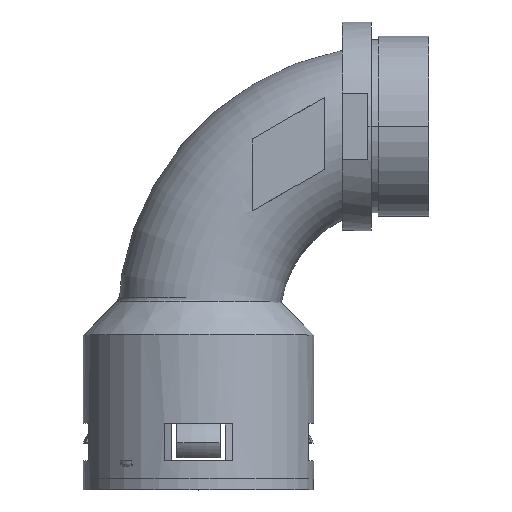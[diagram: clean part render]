
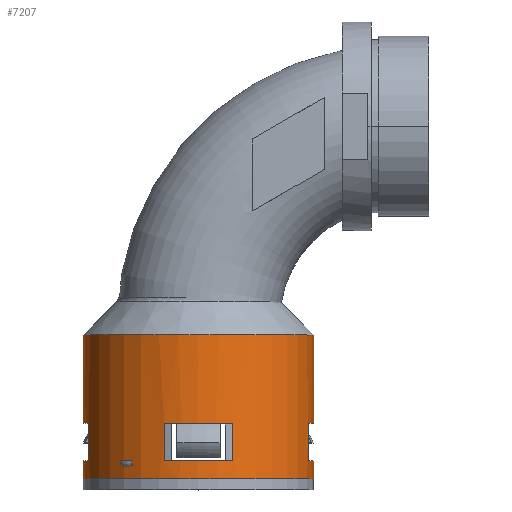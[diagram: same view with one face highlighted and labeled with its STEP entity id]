
A CAD part, top view. The second image highlights one B-rep face of the part: STEP entity #7207.
In plain terms, the highlighted cylindrical face has radius 32 mm (diameter 64 mm), a partial arc.
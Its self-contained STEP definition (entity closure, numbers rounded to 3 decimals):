
#595 = CARTESIAN_POINT ( 'NONE',  ( 0.002, 15.5, 0. ) ) ;
#596 = AXIS2_PLACEMENT_3D ( 'NONE', #595, #730, #1155 ) ;
#730 = DIRECTION ( 'NONE',  ( 0., -1., 0. ) ) ;
#1155 = DIRECTION ( 'NONE',  ( 0., 0., 1. ) ) ;
#1994 = CARTESIAN_POINT ( 'NONE',  ( 32.002, 40., 0. ) ) ;
#2007 = CARTESIAN_POINT ( 'NONE',  ( -9.5, 5., 30.557 ) ) ;
#2015 = FACE_OUTER_BOUND ( 'NONE', #7309, .T. ) ;
#2016 = DIRECTION ( 'NONE',  ( -1., 0., 0. ) ) ;
#2017 = DIRECTION ( 'NONE',  ( 0., 1., 0. ) ) ;
#2019 = CYLINDRICAL_SURFACE ( 'NONE', #2036, 32. ) ;
#2020 = FACE_BOUND ( 'NONE', #7339, .T. ) ;
#2026 = CARTESIAN_POINT ( 'NONE',  ( 0.002, 78., 0. ) ) ;
#2036 = AXIS2_PLACEMENT_3D ( 'NONE', #2026, #2017, #2016 ) ;
#2236 = CARTESIAN_POINT ( 'NONE',  ( -31.998, 40., 0. ) ) ;
#2244 = CARTESIAN_POINT ( 'NONE',  ( 30.56, 15.5, 9.5 ) ) ;
#2250 = DIRECTION ( 'NONE',  ( 0., 0., 1. ) ) ;
#2251 = DIRECTION ( 'NONE',  ( 0., -1., 0. ) ) ;
#2252 = CARTESIAN_POINT ( 'NONE',  ( 0.002, 15.5, 0. ) ) ;
#2253 = AXIS2_PLACEMENT_3D ( 'NONE', #2252, #2251, #2250 ) ;
#2261 = CARTESIAN_POINT ( 'NONE',  ( 32.002, 0., 0. ) ) ;
#2267 = CIRCLE ( 'NONE', #2253, 32. ) ;
#2290 = DIRECTION ( 'NONE',  ( 0., 0., 1. ) ) ;
#2291 = DIRECTION ( 'NONE',  ( 0., -1., 0. ) ) ;
#2292 = CARTESIAN_POINT ( 'NONE',  ( 0.002, 15.5, 0. ) ) ;
#2294 = DIRECTION ( 'NONE',  ( 0., 1., 0. ) ) ;
#2295 = VECTOR ( 'NONE', #2294, 1000. ) ;
#2296 = AXIS2_PLACEMENT_3D ( 'NONE', #2292, #2291, #2290 ) ;
#2299 = CIRCLE ( 'NONE', #2296, 32. ) ;
#2300 = DIRECTION ( 'NONE',  ( 0., 1., 0. ) ) ;
#2301 = VECTOR ( 'NONE', #2300, 1000. ) ;
#2303 = CARTESIAN_POINT ( 'NONE',  ( 9.5, 5., 30.558 ) ) ;
#2304 = CARTESIAN_POINT ( 'NONE',  ( 30.56, 5., 9.5 ) ) ;
#2309 = CARTESIAN_POINT ( 'NONE',  ( -31.998, 78., 0. ) ) ;
#2310 = LINE ( 'NONE', #2309, #2295 ) ;
#2314 = CARTESIAN_POINT ( 'NONE',  ( -31.998, 5., 0. ) ) ;
#2315 = CARTESIAN_POINT ( 'NONE',  ( -9.5, 78., 30.557 ) ) ;
#2316 = LINE ( 'NONE', #2315, #2301 ) ;
#2330 = DIRECTION ( 'NONE',  ( 0., 0., 1. ) ) ;
#2331 = DIRECTION ( 'NONE',  ( 0., -1., 0. ) ) ;
#2332 = CARTESIAN_POINT ( 'NONE',  ( 0.002, 5., 0. ) ) ;
#2334 = CARTESIAN_POINT ( 'NONE',  ( -31.998, 0., 0. ) ) ;
#2336 = CIRCLE ( 'NONE', #2343, 32. ) ;
#2343 = AXIS2_PLACEMENT_3D ( 'NONE', #2332, #2331, #2330 ) ;
#2348 = CARTESIAN_POINT ( 'NONE',  ( 9.5, 15.5, 30.558 ) ) ;
#2350 = CARTESIAN_POINT ( 'NONE',  ( -9.5, 15.5, 30.557 ) ) ;
#2351 = AXIS2_PLACEMENT_3D ( 'NONE', #2361, #2404, #2403 ) ;
#2356 = DIRECTION ( 'NONE',  ( 0., -1., 0. ) ) ;
#2357 = VECTOR ( 'NONE', #2356, 1000. ) ;
#2361 = CARTESIAN_POINT ( 'NONE',  ( 0.002, 5., 0. ) ) ;
#2372 = CIRCLE ( 'NONE', #2351, 32. ) ;
#2377 = CARTESIAN_POINT ( 'NONE',  ( 9.5, 78., 30.558 ) ) ;
#2378 = LINE ( 'NONE', #2377, #2357 ) ;
#2387 = CIRCLE ( 'NONE', #596, 32. ) ;
#2395 = DIRECTION ( 'NONE',  ( -1., 0., 0. ) ) ;
#2396 = AXIS2_PLACEMENT_3D ( 'NONE', #2399, #2406, #2395 ) ;
#2399 = CARTESIAN_POINT ( 'NONE',  ( 0.002, 0., 0. ) ) ;
#2403 = DIRECTION ( 'NONE',  ( 0., 0., 1. ) ) ;
#2404 = DIRECTION ( 'NONE',  ( 0., -1., 0. ) ) ;
#2406 = DIRECTION ( 'NONE',  ( 0., 1., 0. ) ) ;
#2407 = CIRCLE ( 'NONE', #2396, 32. ) ;
#2436 = CARTESIAN_POINT ( 'NONE',  ( -31.998, 15.5, 0. ) ) ;
#2450 = CARTESIAN_POINT ( 'NONE',  ( 32.002, 15.5, 0. ) ) ;
#2493 = CARTESIAN_POINT ( 'NONE',  ( -30.555, 5., 9.5 ) ) ;
#2494 = DIRECTION ( 'NONE',  ( 0., 1., 0. ) ) ;
#2495 = VECTOR ( 'NONE', #2494, 1000. ) ;
#2496 = CARTESIAN_POINT ( 'NONE',  ( 32.002, 78., 0. ) ) ;
#2498 = VECTOR ( 'NONE', #2502, 1000. ) ;
#2500 = DIRECTION ( 'NONE',  ( 0., 0., 1. ) ) ;
#2501 = DIRECTION ( 'NONE',  ( 0., -1., 0. ) ) ;
#2502 = DIRECTION ( 'NONE',  ( 0., 1., 0. ) ) ;
#2503 = CARTESIAN_POINT ( 'NONE',  ( 30.56, 78., 9.5 ) ) ;
#2504 = CARTESIAN_POINT ( 'NONE',  ( -30.555, 15.5, 9.5 ) ) ;
#2505 = LINE ( 'NONE', #2503, #2498 ) ;
#2506 = LINE ( 'NONE', #2496, #2495 ) ;
#2507 = DIRECTION ( 'NONE',  ( 0., 1., 0. ) ) ;
#2508 = VECTOR ( 'NONE', #2507, 1000. ) ;
#2509 = CARTESIAN_POINT ( 'NONE',  ( 32.002, 78., 0. ) ) ;
#2511 = DIRECTION ( 'NONE',  ( -1., 0., 0. ) ) ;
#2512 = DIRECTION ( 'NONE',  ( 0., 1., 0. ) ) ;
#2513 = CARTESIAN_POINT ( 'NONE',  ( 0.002, 40., 0. ) ) ;
#2514 = CARTESIAN_POINT ( 'NONE',  ( 0.002, 5., 0. ) ) ;
#2515 = CARTESIAN_POINT ( 'NONE',  ( 32.002, 5., 0. ) ) ;
#2519 = AXIS2_PLACEMENT_3D ( 'NONE', #2513, #2512, #2511 ) ;
#2520 = LINE ( 'NONE', #2509, #2508 ) ;
#2521 = CIRCLE ( 'NONE', #2527, 32. ) ;
#2527 = AXIS2_PLACEMENT_3D ( 'NONE', #2514, #2501, #2500 ) ;
#2531 = DIRECTION ( 'NONE',  ( 0., 1., 0. ) ) ;
#2532 = VECTOR ( 'NONE', #2531, 1000. ) ;
#2533 = CARTESIAN_POINT ( 'NONE',  ( -31.998, 78., 0. ) ) ;
#2534 = LINE ( 'NONE', #2533, #2532 ) ;
#2535 = DIRECTION ( 'NONE',  ( 0., -1., 0. ) ) ;
#2536 = VECTOR ( 'NONE', #2535, 1000. ) ;
#2542 = CARTESIAN_POINT ( 'NONE',  ( -30.555, 78., 9.5 ) ) ;
#2543 = LINE ( 'NONE', #2542, #2536 ) ;
#2550 = CIRCLE ( 'NONE', #2519, 32. ) ;
#7207 = ADVANCED_FACE ( 'NONE', ( #2020, #2015 ), #2019, .T. ) ;
#7208 = VERTEX_POINT ( 'NONE', #2007 ) ;
#7212 = ORIENTED_EDGE ( 'NONE', *, *, #7375, .T. ) ;
#7213 = VERTEX_POINT ( 'NONE', #1994 ) ;
#7282 = EDGE_CURVE ( 'NONE', #7392, #7288, #2267, .T. ) ;
#7284 = VERTEX_POINT ( 'NONE', #2261 ) ;
#7288 = VERTEX_POINT ( 'NONE', #2244 ) ;
#7289 = ORIENTED_EDGE ( 'NONE', *, *, #7429, .T. ) ;
#7295 = ORIENTED_EDGE ( 'NONE', *, *, #7425, .T. ) ;
#7305 = VERTEX_POINT ( 'NONE', #2236 ) ;
#7309 = EDGE_LOOP ( 'NONE', ( #7326, #7329, #7330, #7289, #7363, #7295, #7427, #7332, #7341, #7331, #7317, #7413 ) ) ;
#7311 = EDGE_CURVE ( 'NONE', #7208, #7387, #2316, .T. ) ;
#7314 = VERTEX_POINT ( 'NONE', #2303 ) ;
#7316 = EDGE_CURVE ( 'NONE', #7391, #7305, #2310, .T. ) ;
#7317 = ORIENTED_EDGE ( 'NONE', *, *, #7426, .T. ) ;
#7318 = EDGE_CURVE ( 'NONE', #7432, #7391, #2299, .T. ) ;
#7319 = VERTEX_POINT ( 'NONE', #2314 ) ;
#7325 = VERTEX_POINT ( 'NONE', #2348 ) ;
#7326 = ORIENTED_EDGE ( 'NONE', *, *, #7378, .T. ) ;
#7329 = ORIENTED_EDGE ( 'NONE', *, *, #7433, .T. ) ;
#7330 = ORIENTED_EDGE ( 'NONE', *, *, #7344, .T. ) ;
#7331 = ORIENTED_EDGE ( 'NONE', *, *, #7414, .T. ) ;
#7332 = ORIENTED_EDGE ( 'NONE', *, *, #7316, .F. ) ;
#7339 = EDGE_LOOP ( 'NONE', ( #7420, #7373, #7212, #7372 ) ) ;
#7341 = ORIENTED_EDGE ( 'NONE', *, *, #7318, .F. ) ;
#7342 = VERTEX_POINT ( 'NONE', #2304 ) ;
#7343 = VERTEX_POINT ( 'NONE', #2334 ) ;
#7344 = EDGE_CURVE ( 'NONE', #7428, #7342, #2336, .T. ) ;
#7363 = ORIENTED_EDGE ( 'NONE', *, *, #7282, .F. ) ;
#7371 = EDGE_CURVE ( 'NONE', #7325, #7314, #2378, .T. ) ;
#7372 = ORIENTED_EDGE ( 'NONE', *, *, #7311, .T. ) ;
#7373 = ORIENTED_EDGE ( 'NONE', *, *, #7371, .T. ) ;
#7375 = EDGE_CURVE ( 'NONE', #7314, #7208, #2372, .T. ) ;
#7378 = EDGE_CURVE ( 'NONE', #7343, #7284, #2407, .T. ) ;
#7387 = VERTEX_POINT ( 'NONE', #2350 ) ;
#7388 = EDGE_CURVE ( 'NONE', #7325, #7387, #2387, .T. ) ;
#7391 = VERTEX_POINT ( 'NONE', #2436 ) ;
#7392 = VERTEX_POINT ( 'NONE', #2450 ) ;
#7413 = ORIENTED_EDGE ( 'NONE', *, *, #7415, .F. ) ;
#7414 = EDGE_CURVE ( 'NONE', #7432, #7435, #2543, .T. ) ;
#7415 = EDGE_CURVE ( 'NONE', #7343, #7319, #2534, .T. ) ;
#7420 = ORIENTED_EDGE ( 'NONE', *, *, #7388, .F. ) ;
#7423 = EDGE_CURVE ( 'NONE', #7305, #7213, #2550, .T. ) ;
#7425 = EDGE_CURVE ( 'NONE', #7392, #7213, #2520, .T. ) ;
#7426 = EDGE_CURVE ( 'NONE', #7435, #7319, #2521, .T. ) ;
#7427 = ORIENTED_EDGE ( 'NONE', *, *, #7423, .F. ) ;
#7428 = VERTEX_POINT ( 'NONE', #2515 ) ;
#7429 = EDGE_CURVE ( 'NONE', #7342, #7288, #2505, .T. ) ;
#7432 = VERTEX_POINT ( 'NONE', #2504 ) ;
#7433 = EDGE_CURVE ( 'NONE', #7284, #7428, #2506, .T. ) ;
#7435 = VERTEX_POINT ( 'NONE', #2493 ) ;
